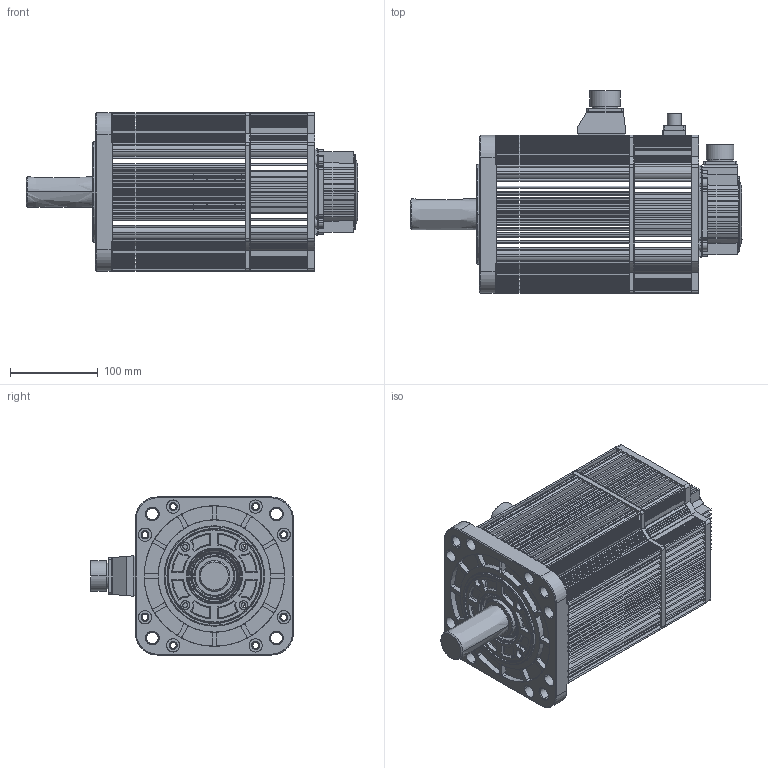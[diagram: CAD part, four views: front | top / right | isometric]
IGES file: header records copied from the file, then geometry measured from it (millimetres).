
Start section: SolidWorks IGES file using analytic representation for surfaces
Global section: file name: E:\est2012\d\17年任务\2017.01.04 外海需求电机3D图升级归档\EMG-30AFA24\EMG-30(APA24,ASA24,AFA24)with holding brake.IGS,15HSolidWorks; native system: 2015; preprocessor: SolidWorks 2015; author: hongyunting; date: 170106.145626; units: millimetre
Bounding box: 378.2 x 231 x 180 mm (x, y, z)
Surface area: 466128.2 mm2 (no closed solid volume)
Topology: 0 solids, 0 shells, 2023 faces, 25671 edges, 25671 vertices
Faces by surface type: revolution 1168, bspline 855
